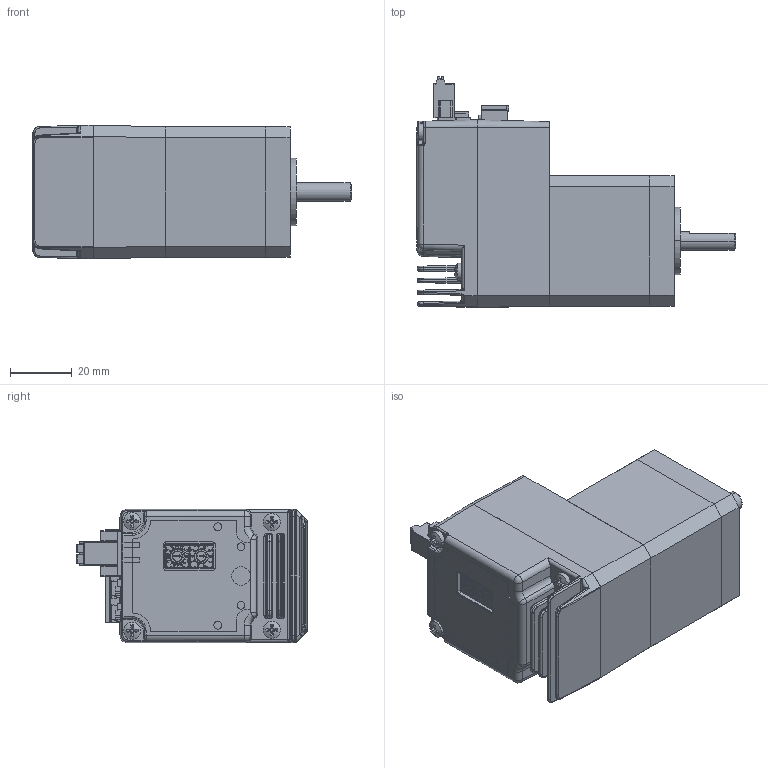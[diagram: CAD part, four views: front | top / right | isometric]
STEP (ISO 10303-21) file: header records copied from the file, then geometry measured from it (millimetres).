
FILE_DESCRIPTION (( 'STEP AP214' ), '1' );
FILE_NAME ('TSM17-3CG夥厙.STEP', '2021-07-15T05:16:56', ( 'Windows User' ), ( 'P R C' ), 'SwSTEP 2.0', 'SolidWorks 2015', '' );
FILE_SCHEMA (( 'AUTOMOTIVE_DESIGN' ));
Length unit declared in the file: millimetre
Products named in the file (19): 8; 9; 4; 11; 2; 3; 6; 10; 15; 13; 17; 16; 1; 12; TSM17-3CG夥厙; 18; 5; 7; 14
Assembly tree (22 placements, depth 3):
  TSM17-3CG夥厙
    13
      15
      14
      17
      16
    12
    5
    3
    11
    10
    2  x2
    6  x2
    7  x2
    1
    4
    8
    18  x2
    9
Bounding box: 103.75 x 75.1 x 43.53 mm (x, y, z)
Volume: 113997.2 mm3; surface area: 66978.6 mm2
Topology: 21 solids, 31 shells, 3791 faces, 9702 edges, 6115 vertices
Faces by surface type: plane 2237, cylinder 879, bspline 384, torus 130, sphere 109, cone 52
Entity records: 141981 total; most frequent: CARTESIAN_POINT 35690, ORIENTED_EDGE 18298, DIRECTION 16905, EDGE_CURVE 9151, VECTOR 6451, LINE 6451, VERTEX_POINT 5821, AXIS2_PLACEMENT_3D 5227
